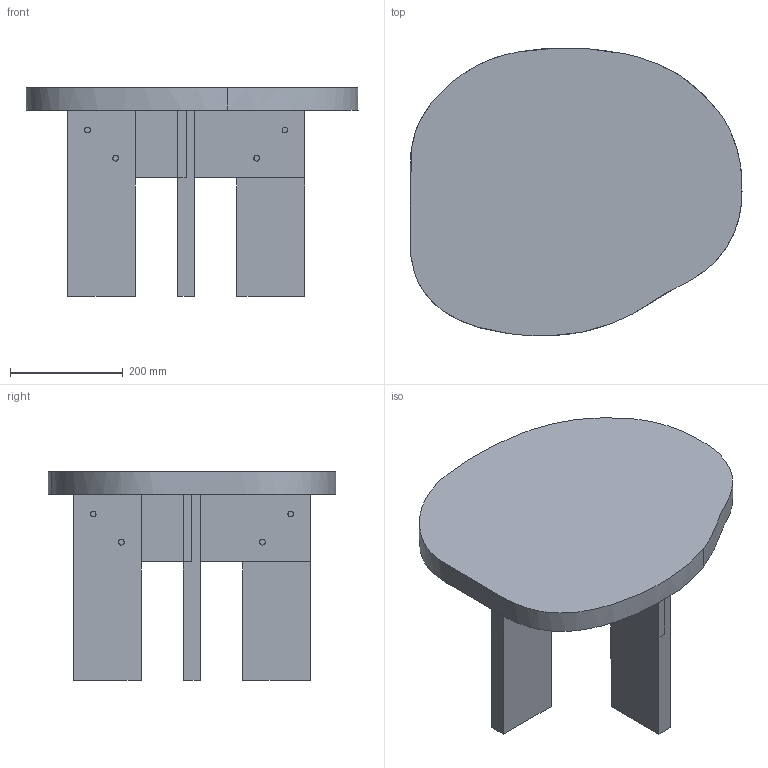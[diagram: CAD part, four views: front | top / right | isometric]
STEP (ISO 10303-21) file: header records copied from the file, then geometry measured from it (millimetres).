
FILE_DESCRIPTION(/* description */ (''),/* implementation_level */ '2;1');
FILE_NAME(/* name */ 'FRAMA_Farmhouse-Side Table-Pond-3D',/* time_stamp */ '2025-11-07T11:09:14+01:00',/* author */ (''),/* organization */ (''),/* preprocessor_version */ 'ST-DEVELOPER v16.5',/* originating_system */ 'Rhino 7.38',/* authorisation */ '');
FILE_SCHEMA (('CONFIG_CONTROL_DESIGN'));
Length unit declared in the file: millimetre
Products named in the file (1): Document
Bounding box: 588.36 x 509.51 x 370.27 mm (x, y, z)
Volume: 15760864.9 mm3; surface area: 1236004.4 mm2
Topology: 16 solids, 16 shells, 132 faces, 296 edges, 196 vertices
Faces by surface type: plane 82, cylinder 48, bspline 2
Entity records: 15842 total; most frequent: CARTESIAN_POINT 13632, ORIENTED_EDGE 592, EDGE_CURVE 296, VERTEX_POINT 196, EDGE_LOOP 164, B_SPLINE_CURVE_WITH_KNOTS 152, DIRECTION 134, ADVANCED_FACE 132
